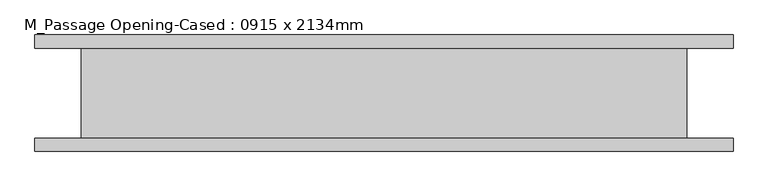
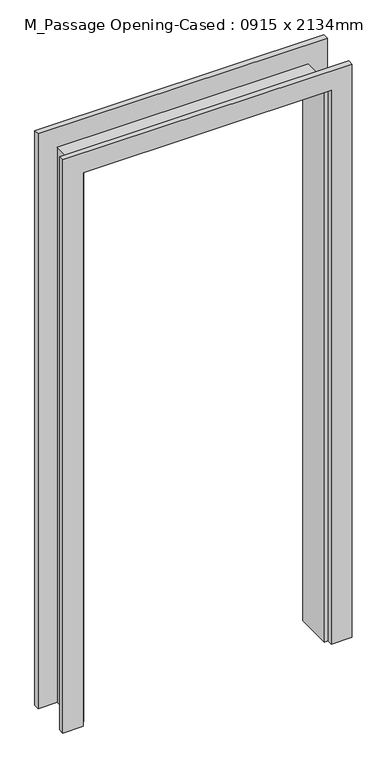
"""IFC4 building model written with IfcOpenShell, lengths in millimetres: proxy geometry, M_Passage Opening-Cased : 0915 x 2134mm."""

import ifcopenshell
import ifcopenshell.guid

model = None  # the IFC model being written
_history = None  # IfcOwnerHistory: only IFC2X3 demands one
_inside = {}  # id of a spatial element -> (the spatial element, [elements in it])
_under = {}  # id of a project, library or spatial element -> (it, [spatial elements below it])
_declared = {}  # id of a project -> (the project, [libraries it declares])
_typed = {}  # id of a type object -> (the type object, [elements of that type])
_made_of = {}  # id of a material, layer set ... -> (it, [elements and type objects made of it])


def new_model(schema):
    """Start an empty IFC model of exactly this schema.

    Asked for "IFC4X3", IfcOpenShell would pick the latest addendum, in which some entities
    have other attributes; the version numbers below select the first issue.
    IFC2X3 requires an IfcOwnerHistory on every rooted entity: one is made here for all.
    """
    global model, _history
    if schema == "IFC4X3":
        model = ifcopenshell.file(schema_version=(4, 3, 0, 0))
    else:
        model = ifcopenshell.file(schema=schema)
    _inside.clear()
    _under.clear()
    _declared.clear()
    _typed.clear()
    _made_of.clear()
    _history = None
    if model.schema == "IFC2X3":
        org = make("IfcOrganization", Name="unknown")
        user = make(
            "IfcPersonAndOrganization",
            ThePerson=make("IfcPerson", FamilyName="unknown"),
            TheOrganization=org,
        )
        app = make(
            "IfcApplication",
            ApplicationDeveloper=org,
            Version="unknown",
            ApplicationFullName="unknown",
            ApplicationIdentifier="unknown",
        )
        _history = make(
            "IfcOwnerHistory",
            OwningUser=user,
            OwningApplication=app,
            ChangeAction="ADDED",
            CreationDate=0,
        )
    return model


def make(cls, **values):
    """One entity of the class cls with the attributes given. An attribute that is None is left unset."""
    return model.create_entity(
        cls, **{name: value for name, value in values.items() if value is not None}
    )


def rooted(cls, **values):
    """An entity with a GlobalId (a new one), such as an element, a storey or a relation."""
    return make(cls, GlobalId=ifcopenshell.guid.new(), OwnerHistory=_history, **values)


def si_unit(unit_type, name, prefix=None):
    """IfcSIUnit, for example si_unit("LENGTHUNIT", "METRE", prefix="MILLI")."""
    return make("IfcSIUnit", UnitType=unit_type, Prefix=prefix, Name=name)


def assignment(units):
    """IfcUnitAssignment: the units of a project."""
    return None if units is None else make("IfcUnitAssignment", Units=units)


def point(xyz):
    """IfcCartesianPoint."""
    return None if xyz is None else make("IfcCartesianPoint", Coordinates=xyz)


def direction(xyz):
    """IfcDirection."""
    return None if xyz is None else make("IfcDirection", DirectionRatios=xyz)


def frame(location, z_axis=None, x_axis=None):
    """IfcAxis2Placement3D, a coordinate frame: its origin and axes. An axis left out is left unset."""
    return make(
        "IfcAxis2Placement3D",
        Location=point(location),
        Axis=direction(z_axis),
        RefDirection=direction(x_axis),
    )


def origin():
    """The frame at (0, 0, 0) with its axes left unset."""
    return frame((0.0, 0.0, 0.0))


def place(relative_to, where):
    """IfcLocalPlacement: puts the frame where relative to a parent placement (None: the world)."""
    return make(
        "IfcLocalPlacement", PlacementRelTo=relative_to, RelativePlacement=where
    )


def context(
    kind, dimensions, precision=None, world=None, true_north=None, identifier=None
):
    """IfcGeometricRepresentationContext, for example the 3D "Model" context."""
    return make(
        "IfcGeometricRepresentationContext",
        ContextIdentifier=identifier,
        ContextType=kind,
        CoordinateSpaceDimension=dimensions,
        Precision=precision,
        WorldCoordinateSystem=world,
        TrueNorth=true_north,
    )


def project(units=None, contexts=None):
    """IfcProject with its units and contexts."""
    return rooted(
        "IfcProject",
        Name="project",
        RepresentationContexts=contexts,
        UnitsInContext=assignment(units),
    )


def spatial(cls, under=None, at=None, **own):
    """A site, building, storey or space (cls), placed at a placement, below another one or the project."""
    s = rooted(cls, ObjectPlacement=at, **own)
    if under is not None:
        _under.setdefault(under.id(), (under, []))[1].append(s)
    return s


def polyline(points):
    """IfcPolyline through the points."""
    return make("IfcPolyline", Points=[point(p) for p in points])


def outline(outer, holes=None, kind="AREA"):
    """IfcArbitraryClosedProfileDef: a profile drawn as a closed curve; with holes, ...WithVoids."""
    if holes is None:
        return make("IfcArbitraryClosedProfileDef", ProfileType=kind, OuterCurve=outer)
    return make(
        "IfcArbitraryProfileDefWithVoids",
        ProfileType=kind,
        OuterCurve=outer,
        InnerCurves=holes,
    )


def extrude(swept, where, along, depth):
    """IfcExtrudedAreaSolid: the profile swept, set in the frame where, extruded along a direction by depth."""
    return make(
        "IfcExtrudedAreaSolid",
        SweptArea=swept,
        Position=where,
        ExtrudedDirection=direction(along),
        Depth=depth,
    )


def faces_of(points, faces, orient=None, outer=None):
    """IfcFace entities. A face is a list of loops; a loop is a list of indices into points, from 0.

    orient and outer hold one flag for each loop. By default every Orientation is true, the
    first loop of a face is its IfcFaceOuterBound and the others are IfcFaceBound.
    """
    made = []
    for i, loops in enumerate(faces):
        bounds = []
        for j, loop in enumerate(loops):
            is_outer = j == 0 if outer is None else outer[i][j]
            bounds.append(
                make(
                    "IfcFaceOuterBound" if is_outer else "IfcFaceBound",
                    Bound=make("IfcPolyLoop", Polygon=[points[k] for k in loop]),
                    Orientation=True if orient is None else orient[i][j],
                )
            )
        made.append(make("IfcFace", Bounds=bounds))
    return made


def faceted_brep(points, faces, orient=None, outer=None, voids=None):
    """IfcFacetedBrep: a solid bounded by flat faces; with voids (closed shells), ...WithVoids."""
    shared = [point(p) for p in points]
    hull = make("IfcClosedShell", CfsFaces=faces_of(shared, faces, orient, outer))
    if voids is None:
        return make("IfcFacetedBrep", Outer=hull)
    return make(
        "IfcFacetedBrepWithVoids",
        Outer=hull,
        Voids=[
            make(cls, CfsFaces=faces_of(shared, fs, o, b)) for cls, fs, o, b in voids
        ],
    )


def shape(context_of_items, identifier, shape_type, items):
    """IfcShapeRepresentation: the items that make up one representation, for example the "Body"."""
    return make(
        "IfcShapeRepresentation",
        ContextOfItems=context_of_items,
        RepresentationIdentifier=identifier,
        RepresentationType=shape_type,
        Items=items,
    )


def source(mapping_origin, context_of_items, identifier, shape_type, items):
    """IfcRepresentationMap: a shape defined once, which mapped items show again and again."""
    return make(
        "IfcRepresentationMap",
        MappingOrigin=mapping_origin,
        MappedRepresentation=shape(context_of_items, identifier, shape_type, items),
    )


def transform(
    local_origin,
    x_axis=None,
    y_axis=None,
    z_axis=None,
    scale=None,
    scale2=None,
    scale3=None,
    uniform=True,
):
    """IfcCartesianTransformationOperator3D, or its non-uniform kind. x_axis, y_axis, z_axis: its Axis1, 2, 3."""
    if uniform:
        return make(
            "IfcCartesianTransformationOperator3D",
            Axis1=direction(x_axis),
            Axis2=direction(y_axis),
            LocalOrigin=point(local_origin),
            Scale=scale,
            Axis3=direction(z_axis),
        )
    return make(
        "IfcCartesianTransformationOperator3DnonUniform",
        Axis1=direction(x_axis),
        Axis2=direction(y_axis),
        LocalOrigin=point(local_origin),
        Scale=scale,
        Axis3=direction(z_axis),
        Scale2=scale2,
        Scale3=scale3,
    )


def mapped(mapping_source, mapping_target):
    """IfcMappedItem: shows the shape of a source again, moved by a transform."""
    return make(
        "IfcMappedItem", MappingSource=mapping_source, MappingTarget=mapping_target
    )


def made_of(thing, what):
    """Note that an element or type object is made of a material, layer set ...; save() writes the relation."""
    if what is not None:
        _made_of.setdefault(what.id(), (what, []))[1].append(thing)
    return thing


def element(
    cls,
    number,
    at=None,
    inside=None,
    cuts=None,
    type_object=None,
    material=None,
    context=None,
    identifier="Body",
    shape_type=None,
    held_by="IfcProductDefinitionShape",
    body=None,
    shapes=None,
    **own,
):
    """One element of the class cls, such as IfcWall. Its Tag is "e" and its number.

    at: its placement. inside: the storey or other place that contains it. cuts: it is an
    opening in that element (IfcRelVoidsElement). A single representation is given by context,
    identifier, shape_type and body (its items); several are given by shapes. held_by: the class
    of the entity that holds the representations. save() writes the other relations.
    """
    e = rooted(cls, Tag="e%d" % number, ObjectPlacement=at, **own)
    if body is not None:
        shapes = [shape(context, identifier, shape_type, body)]
    if shapes is not None:
        e.Representation = make(held_by, Representations=shapes)
    if inside is not None:
        _inside.setdefault(inside.id(), (inside, []))[1].append(e)
    if cuts is not None:
        rooted(
            "IfcRelVoidsElement", RelatingBuildingElement=cuts, RelatedOpeningElement=e
        )
    if type_object is not None:
        _typed.setdefault(type_object.id(), (type_object, []))[1].append(e)
    return made_of(e, material)


def aggregate(whole, parts):
    """IfcRelAggregates: a whole, such as a stair, and the parts it consists of."""
    return rooted("IfcRelAggregates", RelatingObject=whole, RelatedObjects=parts)


def save(model, path):
    """Write the relations noted so far, then the file.

    IfcRelAggregates (storeys below a building ...), IfcRelContainedInSpatialStructure (elements
    in a storey), IfcRelDefinesByType, IfcRelAssociatesMaterial and IfcRelDeclares: one each for
    every whole, place, type object, material and project.
    """
    for whole, parts in _under.values():
        aggregate(whole, parts)
    for where, things in _inside.values():
        rooted(
            "IfcRelContainedInSpatialStructure",
            RelatedElements=things,
            RelatingStructure=where,
        )
    for kind, things in _typed.values():
        rooted("IfcRelDefinesByType", RelatedObjects=things, RelatingType=kind)
    for what, things in _made_of.values():
        rooted("IfcRelAssociatesMaterial", RelatedObjects=things, RelatingMaterial=what)
    for by, libraries in _declared.values():
        rooted("IfcRelDeclares", RelatingContext=by, RelatedDefinitions=libraries)
    model.write(path)


def m_passage_opening_cased_0915_x_2134mm_b7ef4dee(model_context):
    return source(origin(), model_context, "Body", "SolidModel", [
        extrude(outline(polyline([(0.0, -459.3386567), (2127.65, -459.3386567), (2127.65, 442.9613433), (0.0, 442.9613433), (0.0, 517.9613433), (2202.65, 517.9613433), (2202.65, -534.3386567), (0.0, -534.3386567), (0.0, -459.3386567)])), frame((0.0, -87.75, 0.0), z_axis=(0.0, 1.0, 0.0), x_axis=(0.0, 0.0, 1.0)), (0.0, 0.0, 1.0), 20.0),
        extrude(outline(polyline([(0.0, 517.9613433), (2208.05, 517.9613433), (2208.05, -534.3386567), (0.0, -534.3386567), (0.0, -459.3386567), (2127.65, -459.3386567), (2127.65, 442.9613433), (0.0, 442.9613433), (0.0, 517.9613433)])), frame((0.0, 67.75, 0.0), z_axis=(0.0, 1.0, 0.0), x_axis=(0.0, 0.0, 1.0)), (0.0, 0.0, 1.0), 20.0),
        faceted_brep([(429.3113433, 67.75, 0.0), (448.3613433, 67.75, 0.0), (448.3613433, -67.75, 0.0), (429.3113433, -67.75, 0.0), (429.3113433, 67.75, 2114.0), (448.3613433, 67.75, 2133.05), (448.3613433, -67.75, 2133.05), (429.3113433, -67.75, 2114.0), (-445.6886567, 67.75, 2114.0), (-464.7386567, 67.75, 2133.05), (-464.7386567, -67.75, 2133.05), (-445.6886567, -67.75, 2114.0), (-445.6886567, 67.75, 0.0), (-445.6886567, -67.75, 0.0), (-464.7386567, -67.75, 0.0), (-464.7386567, 67.75, 0.0)], [[[0, 1, 2, 3]], [[1, 0, 4, 5]], [[2, 1, 5, 6]], [[3, 2, 6, 7]], [[0, 3, 7, 4]], [[5, 4, 8, 9]], [[6, 5, 9, 10]], [[7, 6, 10, 11]], [[4, 7, 11, 8]], [[12, 13, 14, 15]], [[9, 8, 12, 15]], [[10, 9, 15, 14]], [[11, 10, 14, 13]], [[8, 11, 13, 12]]]),
    ])


if __name__ == "__main__":
    model = new_model("IFC4")
    model_context = context("Model", 3, world=origin())
    ifc_project = project(units=[si_unit("LENGTHUNIT", "METRE", prefix="MILLI")], contexts=[model_context])
    site = spatial("IfcSite", under=ifc_project)
    building = spatial("IfcBuilding", under=site)
    placement = place(None, origin())
    m_passage_opening_cased_0915_x_2134mm_shape = m_passage_opening_cased_0915_x_2134mm_b7ef4dee(model_context)
    element("IfcBuildingElementProxy", 1, Name="M_Passage Opening-Cased : 0915 x 2134mm", ObjectType="M_Passage Opening-Cased : 0915 x 2134mm", at=placement, inside=building, context=model_context, shape_type="MappedRepresentation", body=[
        mapped(m_passage_opening_cased_0915_x_2134mm_shape, transform((0.0, 0.0, 0.0), x_axis=(1.0, 0.0, 0.0), y_axis=(0.0, 1.0, 0.0), z_axis=(0.0, 0.0, 1.0))),
    ])
    save(model, "model.ifc")
